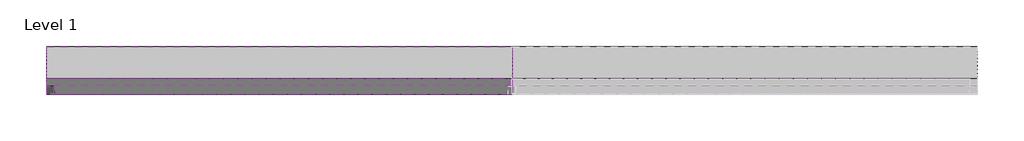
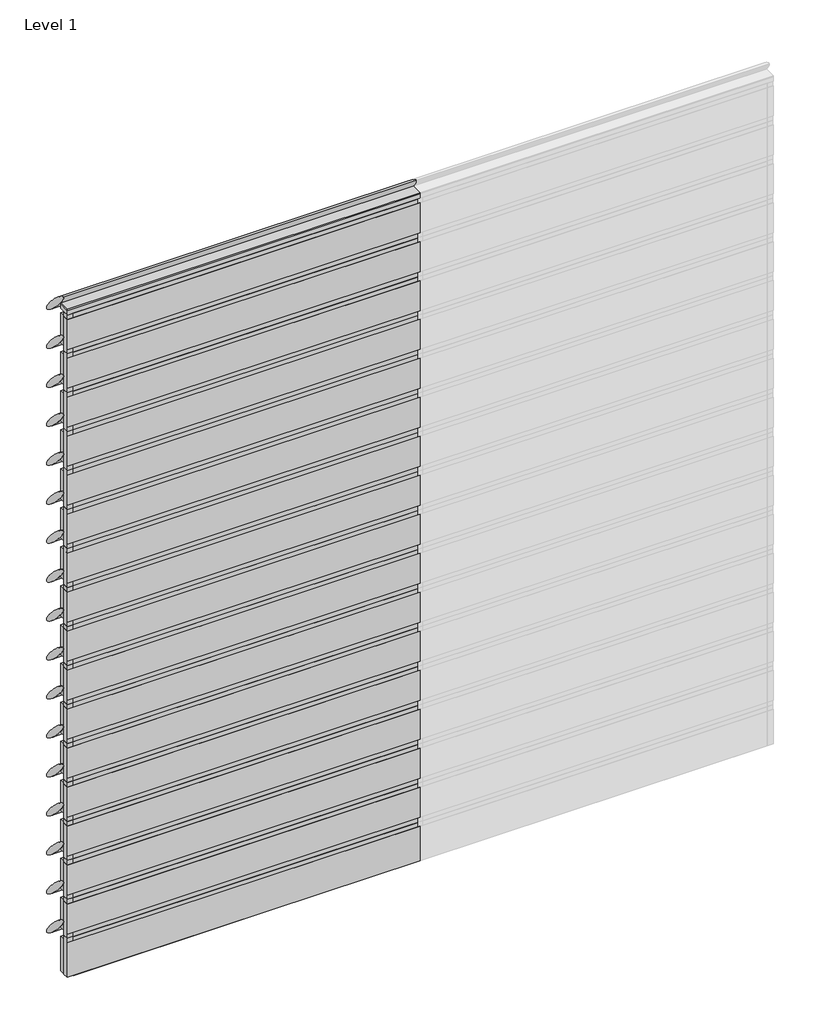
# One storey, part 1 of 2: 42 members, 36 plates.
"""IFC4 building model written with IfcOpenShell, lengths in millimetres."""

from ifc_helpers import new_model, si_unit, origin, place, context, project, spatial, transform, mapped, element, save
from components import rectangular_mullion_80596749, rectangular_mullion_795f5a7c, empty_system_panel_empty_a2c5d73e, empty_system_panel_empty_14cff943, empty_system_panel_empty_231ba346, empty_system_panel_empty_a0d4dec4, empty_system_panel_empty_5b0c2a42

model = new_model("IFC4")

# Units and contexts
model_context = context("Model", 3, world=origin())
ifc_project = project(units=[si_unit("LENGTHUNIT", "METRE", prefix="MILLI")], contexts=[model_context])

# Site, building, storey
site = spatial("IfcSite", under=ifc_project)
building = spatial("IfcBuilding", under=site)
storey = spatial("IfcBuildingStorey", under=building, Name="Level 1", Elevation=0.0)

# Members
placement = place(None, origin())
rectangular_mullion_shape = rectangular_mullion_80596749(model_context)
element("IfcMember", 1, ObjectType="Rectangular Mullion : RSen_21_CWM_blade - 350 ellips - 45°_gen_duco projects", at=placement, inside=storey, context=model_context, shape_type="MappedRepresentation", body=[
    mapped(rectangular_mullion_shape, transform((3000.0, 3000.0, 350.0), x_axis=(0.0, 0.0, 1.0), y_axis=(0.0, 1.0, 0.0), z_axis=(-1.0, 0.0, 0.0))),
])
element("IfcMember", 2, ObjectType="Rectangular Mullion : RSen_21_CWM_blade - 350 ellips - 45°_gen_duco projects", at=placement, inside=storey, context=model_context, shape_type="MappedRepresentation", body=[
    mapped(rectangular_mullion_shape, transform((3000.0, 3000.0, 700.0), x_axis=(0.0, 0.0, 1.0), y_axis=(0.0, 1.0, 0.0), z_axis=(-1.0, 0.0, 0.0))),
])
element("IfcMember", 3, ObjectType="Rectangular Mullion : RSen_21_CWM_blade - 350 ellips - 45°_gen_duco projects", at=placement, inside=storey, context=model_context, shape_type="MappedRepresentation", body=[
    mapped(rectangular_mullion_shape, transform((3000.0, 3000.0, 1050.0), x_axis=(0.0, 0.0, 1.0), y_axis=(0.0, 1.0, 0.0), z_axis=(-1.0, 0.0, 0.0))),
])
element("IfcMember", 4, ObjectType="Rectangular Mullion : RSen_21_CWM_blade - 350 ellips - 45°_gen_duco projects", at=placement, inside=storey, context=model_context, shape_type="MappedRepresentation", body=[
    mapped(rectangular_mullion_shape, transform((3000.0, 3000.0, 1400.0), x_axis=(0.0, 0.0, 1.0), y_axis=(0.0, 1.0, 0.0), z_axis=(-1.0, 0.0, 0.0))),
])
element("IfcMember", 5, ObjectType="Rectangular Mullion : RSen_21_CWM_blade - 350 ellips - 45°_gen_duco projects", at=placement, inside=storey, context=model_context, shape_type="MappedRepresentation", body=[
    mapped(rectangular_mullion_shape, transform((3000.0, 3000.0, 1750.0), x_axis=(0.0, 0.0, 1.0), y_axis=(0.0, 1.0, 0.0), z_axis=(-1.0, 0.0, 0.0))),
])
element("IfcMember", 6, ObjectType="Rectangular Mullion : RSen_21_CWM_blade - 350 ellips - 45°_gen_duco projects", at=placement, inside=storey, context=model_context, shape_type="MappedRepresentation", body=[
    mapped(rectangular_mullion_shape, transform((3000.0, 3000.0, 2100.0), x_axis=(0.0, 0.0, 1.0), y_axis=(0.0, 1.0, 0.0), z_axis=(-1.0, 0.0, 0.0))),
])
element("IfcMember", 7, ObjectType="Rectangular Mullion : RSen_21_CWM_blade - 350 ellips - 45°_gen_duco projects", at=placement, inside=storey, context=model_context, shape_type="MappedRepresentation", body=[
    mapped(rectangular_mullion_shape, transform((3000.0, 3000.0, 2450.0), x_axis=(0.0, 0.0, 1.0), y_axis=(0.0, 1.0, 0.0), z_axis=(-1.0, 0.0, 0.0))),
])
element("IfcMember", 8, ObjectType="Rectangular Mullion : RSen_21_CWM_blade - 350 ellips - 45°_gen_duco projects", at=placement, inside=storey, context=model_context, shape_type="MappedRepresentation", body=[
    mapped(rectangular_mullion_shape, transform((3000.0, 3000.0, 2800.0), x_axis=(0.0, 0.0, 1.0), y_axis=(0.0, 1.0, 0.0), z_axis=(-1.0, 0.0, 0.0))),
])
element("IfcMember", 9, ObjectType="Rectangular Mullion : RSen_21_CWM_blade - 350 ellips - 45°_gen_duco projects", at=placement, inside=storey, context=model_context, shape_type="MappedRepresentation", body=[
    mapped(rectangular_mullion_shape, transform((0.0, 3000.0, 350.0), x_axis=(0.0, 0.0, 1.0), y_axis=(0.0, 1.0, 0.0), z_axis=(-1.0, 0.0, 0.0))),
])
element("IfcMember", 10, ObjectType="Rectangular Mullion : RSen_21_CWM_blade - 350 ellips - 45°_gen_duco projects", at=placement, inside=storey, context=model_context, shape_type="MappedRepresentation", body=[
    mapped(rectangular_mullion_shape, transform((0.0, 3000.0, 700.0), x_axis=(0.0, 0.0, 1.0), y_axis=(0.0, 1.0, 0.0), z_axis=(-1.0, 0.0, 0.0))),
])
element("IfcMember", 11, ObjectType="Rectangular Mullion : RSen_21_CWM_blade - 350 ellips - 45°_gen_duco projects", at=placement, inside=storey, context=model_context, shape_type="MappedRepresentation", body=[
    mapped(rectangular_mullion_shape, transform((0.0, 3000.0, 1050.0), x_axis=(0.0, 0.0, 1.0), y_axis=(0.0, 1.0, 0.0), z_axis=(-1.0, 0.0, 0.0))),
])
element("IfcMember", 12, ObjectType="Rectangular Mullion : RSen_21_CWM_blade - 350 ellips - 45°_gen_duco projects", at=placement, inside=storey, context=model_context, shape_type="MappedRepresentation", body=[
    mapped(rectangular_mullion_shape, transform((0.0, 3000.0, 1400.0), x_axis=(0.0, 0.0, 1.0), y_axis=(0.0, 1.0, 0.0), z_axis=(-1.0, 0.0, 0.0))),
])
element("IfcMember", 13, ObjectType="Rectangular Mullion : RSen_21_CWM_blade - 350 ellips - 45°_gen_duco projects", at=placement, inside=storey, context=model_context, shape_type="MappedRepresentation", body=[
    mapped(rectangular_mullion_shape, transform((0.0, 3000.0, 1750.0), x_axis=(0.0, 0.0, 1.0), y_axis=(0.0, 1.0, 0.0), z_axis=(-1.0, 0.0, 0.0))),
])
element("IfcMember", 14, ObjectType="Rectangular Mullion : RSen_21_CWM_blade - 350 ellips - 45°_gen_duco projects", at=placement, inside=storey, context=model_context, shape_type="MappedRepresentation", body=[
    mapped(rectangular_mullion_shape, transform((0.0, 3000.0, 2100.0), x_axis=(0.0, 0.0, 1.0), y_axis=(0.0, 1.0, 0.0), z_axis=(-1.0, 0.0, 0.0))),
])
element("IfcMember", 15, ObjectType="Rectangular Mullion : RSen_21_CWM_blade - 350 ellips - 45°_gen_duco projects", at=placement, inside=storey, context=model_context, shape_type="MappedRepresentation", body=[
    mapped(rectangular_mullion_shape, transform((0.0, 3000.0, 2450.0), x_axis=(0.0, 0.0, 1.0), y_axis=(0.0, 1.0, 0.0), z_axis=(-1.0, 0.0, 0.0))),
])
element("IfcMember", 16, ObjectType="Rectangular Mullion : RSen_21_CWM_blade - 350 ellips - 45°_gen_duco projects", at=placement, inside=storey, context=model_context, shape_type="MappedRepresentation", body=[
    mapped(rectangular_mullion_shape, transform((0.0, 3000.0, 2800.0), x_axis=(0.0, 0.0, 1.0), y_axis=(0.0, 1.0, 0.0), z_axis=(-1.0, 0.0, 0.0))),
])
element("IfcMember", 17, ObjectType="Rectangular Mullion : RSen_21_CWM_blade - 350 ellips - 45°_gen_duco projects", at=placement, inside=storey, context=model_context, shape_type="MappedRepresentation", body=[
    mapped(rectangular_mullion_shape, transform((0.0, 3000.0, 3150.0), x_axis=(0.0, 0.0, 1.0), y_axis=(0.0, 1.0, 0.0), z_axis=(-1.0, 0.0, 0.0))),
])
element("IfcMember", 18, ObjectType="Rectangular Mullion : RSen_21_CWM_blade - 350 ellips - 45°_gen_duco projects", at=placement, inside=storey, context=model_context, shape_type="MappedRepresentation", body=[
    mapped(rectangular_mullion_shape, transform((0.0, 3000.0, 3500.0), x_axis=(0.0, 0.0, 1.0), y_axis=(0.0, 1.0, 0.0), z_axis=(-1.0, 0.0, 0.0))),
])
element("IfcMember", 19, ObjectType="Rectangular Mullion : RSen_21_CWM_blade - 350 ellips - 45°_gen_duco projects", at=placement, inside=storey, context=model_context, shape_type="MappedRepresentation", body=[
    mapped(rectangular_mullion_shape, transform((0.0, 3000.0, 3850.0), x_axis=(0.0, 0.0, 1.0), y_axis=(0.0, 1.0, 0.0), z_axis=(-1.0, 0.0, 0.0))),
])
element("IfcMember", 20, ObjectType="Rectangular Mullion : RSen_21_CWM_blade - 350 ellips - 45°_gen_duco projects", at=placement, inside=storey, context=model_context, shape_type="MappedRepresentation", body=[
    mapped(rectangular_mullion_shape, transform((0.0, 3000.0, 4200.0), x_axis=(0.0, 0.0, 1.0), y_axis=(0.0, 1.0, 0.0), z_axis=(-1.0, 0.0, 0.0))),
])
element("IfcMember", 21, ObjectType="Rectangular Mullion : RSen_21_CWM_blade - 350 ellips - 45°_gen_duco projects", at=placement, inside=storey, context=model_context, shape_type="MappedRepresentation", body=[
    mapped(rectangular_mullion_shape, transform((0.0, 3000.0, 4550.0), x_axis=(0.0, 0.0, 1.0), y_axis=(0.0, 1.0, 0.0), z_axis=(-1.0, 0.0, 0.0))),
])
element("IfcMember", 22, ObjectType="Rectangular Mullion : RSen_21_CWM_blade - 350 ellips - 45°_gen_duco projects", at=placement, inside=storey, context=model_context, shape_type="MappedRepresentation", body=[
    mapped(rectangular_mullion_shape, transform((0.0, 3000.0, 4900.0), x_axis=(0.0, 0.0, 1.0), y_axis=(0.0, 1.0, 0.0), z_axis=(-1.0, 0.0, 0.0))),
])
element("IfcMember", 23, ObjectType="Rectangular Mullion : RSen_21_CWM_blade - 350 ellips - 45°_gen_duco projects", at=placement, inside=storey, context=model_context, shape_type="MappedRepresentation", body=[
    mapped(rectangular_mullion_shape, transform((0.0, 3000.0, 5250.0), x_axis=(0.0, 0.0, 1.0), y_axis=(0.0, 1.0, 0.0), z_axis=(-1.0, 0.0, 0.0))),
])
element("IfcMember", 24, ObjectType="Rectangular Mullion : RSen_21_CWM_blade - 350 ellips - 45°_gen_duco projects", at=placement, inside=storey, context=model_context, shape_type="MappedRepresentation", body=[
    mapped(rectangular_mullion_shape, transform((0.0, 3000.0, 5600.0), x_axis=(0.0, 0.0, 1.0), y_axis=(0.0, 1.0, 0.0), z_axis=(-1.0, 0.0, 0.0))),
])
element("IfcMember", 25, ObjectType="Rectangular Mullion : RSen_21_CWM_blade - 350 ellips - 45°_gen_duco projects", at=placement, inside=storey, context=model_context, shape_type="MappedRepresentation", body=[
    mapped(rectangular_mullion_shape, transform((0.0, 3000.0, 5950.0), x_axis=(0.0, 0.0, 1.0), y_axis=(0.0, 1.0, 0.0), z_axis=(-1.0, 0.0, 0.0))),
])
rectangular_mullion_2_shape = rectangular_mullion_795f5a7c(model_context)
element("IfcMember", 26, ObjectType="Rectangular Mullion : RSen_21_CWM_support profile 50x50 - left_gen_duco projects", at=placement, inside=storey, context=model_context, shape_type="MappedRepresentation", body=[
    mapped(rectangular_mullion_2_shape, transform((0.0, 3000.0, 0.0), x_axis=(-1.0, 0.0, 0.0), y_axis=(0.0, 1.0, 0.0), z_axis=(0.0, 0.0, -1.0))),
])
element("IfcMember", 27, ObjectType="Rectangular Mullion : RSen_21_CWM_support profile 50x50 - left_gen_duco projects", at=placement, inside=storey, context=model_context, shape_type="MappedRepresentation", body=[
    mapped(rectangular_mullion_2_shape, transform((0.0, 3000.0, 350.0), x_axis=(-1.0, 0.0, 0.0), y_axis=(0.0, 1.0, 0.0), z_axis=(0.0, 0.0, -1.0))),
])
element("IfcMember", 28, ObjectType="Rectangular Mullion : RSen_21_CWM_support profile 50x50 - left_gen_duco projects", at=placement, inside=storey, context=model_context, shape_type="MappedRepresentation", body=[
    mapped(rectangular_mullion_2_shape, transform((0.0, 3000.0, 700.0), x_axis=(-1.0, 0.0, 0.0), y_axis=(0.0, 1.0, 0.0), z_axis=(0.0, 0.0, -1.0))),
])
element("IfcMember", 29, ObjectType="Rectangular Mullion : RSen_21_CWM_support profile 50x50 - left_gen_duco projects", at=placement, inside=storey, context=model_context, shape_type="MappedRepresentation", body=[
    mapped(rectangular_mullion_2_shape, transform((0.0, 3000.0, 1050.0), x_axis=(-1.0, 0.0, 0.0), y_axis=(0.0, 1.0, 0.0), z_axis=(0.0, 0.0, -1.0))),
])
element("IfcMember", 30, ObjectType="Rectangular Mullion : RSen_21_CWM_support profile 50x50 - left_gen_duco projects", at=placement, inside=storey, context=model_context, shape_type="MappedRepresentation", body=[
    mapped(rectangular_mullion_2_shape, transform((0.0, 3000.0, 1400.0), x_axis=(-1.0, 0.0, 0.0), y_axis=(0.0, 1.0, 0.0), z_axis=(0.0, 0.0, -1.0))),
])
element("IfcMember", 31, ObjectType="Rectangular Mullion : RSen_21_CWM_support profile 50x50 - left_gen_duco projects", at=placement, inside=storey, context=model_context, shape_type="MappedRepresentation", body=[
    mapped(rectangular_mullion_2_shape, transform((0.0, 3000.0, 1750.0), x_axis=(-1.0, 0.0, 0.0), y_axis=(0.0, 1.0, 0.0), z_axis=(0.0, 0.0, -1.0))),
])
element("IfcMember", 32, ObjectType="Rectangular Mullion : RSen_21_CWM_support profile 50x50 - left_gen_duco projects", at=placement, inside=storey, context=model_context, shape_type="MappedRepresentation", body=[
    mapped(rectangular_mullion_2_shape, transform((0.0, 3000.0, 2100.0), x_axis=(-1.0, 0.0, 0.0), y_axis=(0.0, 1.0, 0.0), z_axis=(0.0, 0.0, -1.0))),
])
element("IfcMember", 33, ObjectType="Rectangular Mullion : RSen_21_CWM_support profile 50x50 - left_gen_duco projects", at=placement, inside=storey, context=model_context, shape_type="MappedRepresentation", body=[
    mapped(rectangular_mullion_2_shape, transform((0.0, 3000.0, 2450.0), x_axis=(-1.0, 0.0, 0.0), y_axis=(0.0, 1.0, 0.0), z_axis=(0.0, 0.0, -1.0))),
])
element("IfcMember", 34, ObjectType="Rectangular Mullion : RSen_21_CWM_support profile 50x50 - left_gen_duco projects", at=placement, inside=storey, context=model_context, shape_type="MappedRepresentation", body=[
    mapped(rectangular_mullion_2_shape, transform((0.0, 3000.0, 2800.0), x_axis=(-1.0, 0.0, 0.0), y_axis=(0.0, 1.0, 0.0), z_axis=(0.0, 0.0, -1.0))),
])
element("IfcMember", 35, ObjectType="Rectangular Mullion : RSen_21_CWM_support profile 50x50 - left_gen_duco projects", at=placement, inside=storey, context=model_context, shape_type="MappedRepresentation", body=[
    mapped(rectangular_mullion_2_shape, transform((0.0, 3000.0, 3150.0), x_axis=(-1.0, 0.0, 0.0), y_axis=(0.0, 1.0, 0.0), z_axis=(0.0, 0.0, -1.0))),
])
element("IfcMember", 36, ObjectType="Rectangular Mullion : RSen_21_CWM_support profile 50x50 - left_gen_duco projects", at=placement, inside=storey, context=model_context, shape_type="MappedRepresentation", body=[
    mapped(rectangular_mullion_2_shape, transform((0.0, 3000.0, 3500.0), x_axis=(-1.0, 0.0, 0.0), y_axis=(0.0, 1.0, 0.0), z_axis=(0.0, 0.0, -1.0))),
])
element("IfcMember", 37, ObjectType="Rectangular Mullion : RSen_21_CWM_support profile 50x50 - left_gen_duco projects", at=placement, inside=storey, context=model_context, shape_type="MappedRepresentation", body=[
    mapped(rectangular_mullion_2_shape, transform((0.0, 3000.0, 3850.0), x_axis=(-1.0, 0.0, 0.0), y_axis=(0.0, 1.0, 0.0), z_axis=(0.0, 0.0, -1.0))),
])
element("IfcMember", 38, ObjectType="Rectangular Mullion : RSen_21_CWM_support profile 50x50 - left_gen_duco projects", at=placement, inside=storey, context=model_context, shape_type="MappedRepresentation", body=[
    mapped(rectangular_mullion_2_shape, transform((0.0, 3000.0, 4200.0), x_axis=(-1.0, 0.0, 0.0), y_axis=(0.0, 1.0, 0.0), z_axis=(0.0, 0.0, -1.0))),
])
element("IfcMember", 39, ObjectType="Rectangular Mullion : RSen_21_CWM_support profile 50x50 - left_gen_duco projects", at=placement, inside=storey, context=model_context, shape_type="MappedRepresentation", body=[
    mapped(rectangular_mullion_2_shape, transform((0.0, 3000.0, 4550.0), x_axis=(-1.0, 0.0, 0.0), y_axis=(0.0, 1.0, 0.0), z_axis=(0.0, 0.0, -1.0))),
])
element("IfcMember", 40, ObjectType="Rectangular Mullion : RSen_21_CWM_support profile 50x50 - left_gen_duco projects", at=placement, inside=storey, context=model_context, shape_type="MappedRepresentation", body=[
    mapped(rectangular_mullion_2_shape, transform((0.0, 3000.0, 4900.0), x_axis=(-1.0, 0.0, 0.0), y_axis=(0.0, 1.0, 0.0), z_axis=(0.0, 0.0, -1.0))),
])
element("IfcMember", 41, ObjectType="Rectangular Mullion : RSen_21_CWM_support profile 50x50 - left_gen_duco projects", at=placement, inside=storey, context=model_context, shape_type="MappedRepresentation", body=[
    mapped(rectangular_mullion_2_shape, transform((0.0, 3000.0, 5250.0), x_axis=(-1.0, 0.0, 0.0), y_axis=(0.0, 1.0, 0.0), z_axis=(0.0, 0.0, -1.0))),
])
element("IfcMember", 42, ObjectType="Rectangular Mullion : RSen_21_CWM_support profile 50x50 - left_gen_duco projects", at=placement, inside=storey, context=model_context, shape_type="MappedRepresentation", body=[
    mapped(rectangular_mullion_2_shape, transform((0.0, 3000.0, 5600.0), x_axis=(-1.0, 0.0, 0.0), y_axis=(0.0, 1.0, 0.0), z_axis=(0.0, 0.0, -1.0))),
])

# Plates
empty_system_panel_empty_shape = empty_system_panel_empty_a2c5d73e(model_context)
element("IfcPlate", 43, ObjectType="Empty System Panel : Empty", at=placement, inside=storey, context=model_context, shape_type="MappedRepresentation", body=[
    mapped(empty_system_panel_empty_shape, transform((1500.0, 3000.0, 5990.3050865), x_axis=(-1.0, 0.0, 0.0), y_axis=(0.0, -1.0, 0.0), z_axis=(0.0, 0.0, 1.0))),
])
empty_system_panel_empty_2_shape = empty_system_panel_empty_14cff943(model_context)
element("IfcPlate", 44, ObjectType="Empty System Panel : Empty", at=placement, inside=storey, context=model_context, shape_type="MappedRepresentation", body=[
    mapped(empty_system_panel_empty_2_shape, transform((1500.0, 3000.0, 0.0), x_axis=(-1.0, 0.0, 0.0), y_axis=(0.0, -1.0, 0.0), z_axis=(0.0, 0.0, 1.0))),
])
empty_system_panel_empty_3_shape = empty_system_panel_empty_231ba346(model_context)
element("IfcPlate", 45, ObjectType="Empty System Panel : Empty", at=placement, inside=storey, context=model_context, shape_type="MappedRepresentation", body=[
    mapped(empty_system_panel_empty_3_shape, transform((1500.0, 3000.0, 390.3050865), x_axis=(-1.0, 0.0, 0.0), y_axis=(0.0, -1.0, 0.0), z_axis=(0.0, 0.0, 1.0))),
])
element("IfcPlate", 46, ObjectType="Empty System Panel : Empty", at=placement, inside=storey, context=model_context, shape_type="MappedRepresentation", body=[
    mapped(empty_system_panel_empty_3_shape, transform((1500.0, 3000.0, 740.3050865), x_axis=(-1.0, 0.0, 0.0), y_axis=(0.0, -1.0, 0.0), z_axis=(0.0, 0.0, 1.0))),
])
element("IfcPlate", 47, ObjectType="Empty System Panel : Empty", at=placement, inside=storey, context=model_context, shape_type="MappedRepresentation", body=[
    mapped(empty_system_panel_empty_3_shape, transform((1500.0, 3000.0, 1090.3050865), x_axis=(-1.0, 0.0, 0.0), y_axis=(0.0, -1.0, 0.0), z_axis=(0.0, 0.0, 1.0))),
])
element("IfcPlate", 48, ObjectType="Empty System Panel : Empty", at=placement, inside=storey, context=model_context, shape_type="MappedRepresentation", body=[
    mapped(empty_system_panel_empty_3_shape, transform((1500.0, 3000.0, 1440.3050865), x_axis=(-1.0, 0.0, 0.0), y_axis=(0.0, -1.0, 0.0), z_axis=(0.0, 0.0, 1.0))),
])
element("IfcPlate", 49, ObjectType="Empty System Panel : Empty", at=placement, inside=storey, context=model_context, shape_type="MappedRepresentation", body=[
    mapped(empty_system_panel_empty_3_shape, transform((1500.0, 3000.0, 1790.3050865), x_axis=(-1.0, 0.0, 0.0), y_axis=(0.0, -1.0, 0.0), z_axis=(0.0, 0.0, 1.0))),
])
element("IfcPlate", 50, ObjectType="Empty System Panel : Empty", at=placement, inside=storey, context=model_context, shape_type="MappedRepresentation", body=[
    mapped(empty_system_panel_empty_3_shape, transform((1500.0, 3000.0, 2140.3050865), x_axis=(-1.0, 0.0, 0.0), y_axis=(0.0, -1.0, 0.0), z_axis=(0.0, 0.0, 1.0))),
])
element("IfcPlate", 51, ObjectType="Empty System Panel : Empty", at=placement, inside=storey, context=model_context, shape_type="MappedRepresentation", body=[
    mapped(empty_system_panel_empty_3_shape, transform((1500.0, 3000.0, 2490.3050865), x_axis=(-1.0, 0.0, 0.0), y_axis=(0.0, -1.0, 0.0), z_axis=(0.0, 0.0, 1.0))),
])
element("IfcPlate", 52, ObjectType="Empty System Panel : Empty", at=placement, inside=storey, context=model_context, shape_type="MappedRepresentation", body=[
    mapped(empty_system_panel_empty_3_shape, transform((1500.0, 3000.0, 2840.3050865), x_axis=(-1.0, 0.0, 0.0), y_axis=(0.0, -1.0, 0.0), z_axis=(0.0, 0.0, 1.0))),
])
element("IfcPlate", 53, ObjectType="Empty System Panel : Empty", at=placement, inside=storey, context=model_context, shape_type="MappedRepresentation", body=[
    mapped(empty_system_panel_empty_3_shape, transform((1500.0, 3000.0, 3190.3050865), x_axis=(-1.0, 0.0, 0.0), y_axis=(0.0, -1.0, 0.0), z_axis=(0.0, 0.0, 1.0))),
])
element("IfcPlate", 54, ObjectType="Empty System Panel : Empty", at=placement, inside=storey, context=model_context, shape_type="MappedRepresentation", body=[
    mapped(empty_system_panel_empty_3_shape, transform((1500.0, 3000.0, 3540.3050865), x_axis=(-1.0, 0.0, 0.0), y_axis=(0.0, -1.0, 0.0), z_axis=(0.0, 0.0, 1.0))),
])
element("IfcPlate", 55, ObjectType="Empty System Panel : Empty", at=placement, inside=storey, context=model_context, shape_type="MappedRepresentation", body=[
    mapped(empty_system_panel_empty_3_shape, transform((1500.0, 3000.0, 3890.3050865), x_axis=(-1.0, 0.0, 0.0), y_axis=(0.0, -1.0, 0.0), z_axis=(0.0, 0.0, 1.0))),
])
element("IfcPlate", 56, ObjectType="Empty System Panel : Empty", at=placement, inside=storey, context=model_context, shape_type="MappedRepresentation", body=[
    mapped(empty_system_panel_empty_3_shape, transform((1500.0, 3000.0, 4240.3050865), x_axis=(-1.0, 0.0, 0.0), y_axis=(0.0, -1.0, 0.0), z_axis=(0.0, 0.0, 1.0))),
])
element("IfcPlate", 57, ObjectType="Empty System Panel : Empty", at=placement, inside=storey, context=model_context, shape_type="MappedRepresentation", body=[
    mapped(empty_system_panel_empty_3_shape, transform((1500.0, 3000.0, 4590.3050865), x_axis=(-1.0, 0.0, 0.0), y_axis=(0.0, -1.0, 0.0), z_axis=(0.0, 0.0, 1.0))),
])
element("IfcPlate", 58, ObjectType="Empty System Panel : Empty", at=placement, inside=storey, context=model_context, shape_type="MappedRepresentation", body=[
    mapped(empty_system_panel_empty_3_shape, transform((1500.0, 3000.0, 4940.3050865), x_axis=(-1.0, 0.0, 0.0), y_axis=(0.0, -1.0, 0.0), z_axis=(0.0, 0.0, 1.0))),
])
element("IfcPlate", 59, ObjectType="Empty System Panel : Empty", at=placement, inside=storey, context=model_context, shape_type="MappedRepresentation", body=[
    mapped(empty_system_panel_empty_3_shape, transform((1500.0, 3000.0, 5290.3050865), x_axis=(-1.0, 0.0, 0.0), y_axis=(0.0, -1.0, 0.0), z_axis=(0.0, 0.0, 1.0))),
])
element("IfcPlate", 60, ObjectType="Empty System Panel : Empty", at=placement, inside=storey, context=model_context, shape_type="MappedRepresentation", body=[
    mapped(empty_system_panel_empty_3_shape, transform((1500.0, 3000.0, 5640.3050865), x_axis=(-1.0, 0.0, 0.0), y_axis=(0.0, -1.0, 0.0), z_axis=(0.0, 0.0, 1.0))),
])
empty_system_panel_empty_4_shape = empty_system_panel_empty_a0d4dec4(model_context)
element("IfcPlate", 61, ObjectType="Empty System Panel : Empty", at=placement, inside=storey, context=model_context, shape_type="MappedRepresentation", body=[
    mapped(empty_system_panel_empty_4_shape, transform((1512.5, 3000.0, 0.0), x_axis=(-1.0, 0.0, 0.0), y_axis=(0.0, -1.0, 0.0), z_axis=(0.0, 0.0, 1.0))),
])
element("IfcPlate", 62, ObjectType="Empty System Panel : Empty", at=placement, inside=storey, context=model_context, shape_type="MappedRepresentation", body=[
    mapped(empty_system_panel_empty_4_shape, transform((1512.5, 3000.0, 350.0), x_axis=(-1.0, 0.0, 0.0), y_axis=(0.0, -1.0, 0.0), z_axis=(0.0, 0.0, 1.0))),
])
element("IfcPlate", 63, ObjectType="Empty System Panel : Empty", at=placement, inside=storey, context=model_context, shape_type="MappedRepresentation", body=[
    mapped(empty_system_panel_empty_4_shape, transform((1512.5, 3000.0, 700.0), x_axis=(-1.0, 0.0, 0.0), y_axis=(0.0, -1.0, 0.0), z_axis=(0.0, 0.0, 1.0))),
])
element("IfcPlate", 64, ObjectType="Empty System Panel : Empty", at=placement, inside=storey, context=model_context, shape_type="MappedRepresentation", body=[
    mapped(empty_system_panel_empty_4_shape, transform((1512.5, 3000.0, 1050.0), x_axis=(-1.0, 0.0, 0.0), y_axis=(0.0, -1.0, 0.0), z_axis=(0.0, 0.0, 1.0))),
])
element("IfcPlate", 65, ObjectType="Empty System Panel : Empty", at=placement, inside=storey, context=model_context, shape_type="MappedRepresentation", body=[
    mapped(empty_system_panel_empty_4_shape, transform((1512.5, 3000.0, 1400.0), x_axis=(-1.0, 0.0, 0.0), y_axis=(0.0, -1.0, 0.0), z_axis=(0.0, 0.0, 1.0))),
])
element("IfcPlate", 66, ObjectType="Empty System Panel : Empty", at=placement, inside=storey, context=model_context, shape_type="MappedRepresentation", body=[
    mapped(empty_system_panel_empty_4_shape, transform((1512.5, 3000.0, 1750.0), x_axis=(-1.0, 0.0, 0.0), y_axis=(0.0, -1.0, 0.0), z_axis=(0.0, 0.0, 1.0))),
])
element("IfcPlate", 67, ObjectType="Empty System Panel : Empty", at=placement, inside=storey, context=model_context, shape_type="MappedRepresentation", body=[
    mapped(empty_system_panel_empty_4_shape, transform((1512.5, 3000.0, 2100.0), x_axis=(-1.0, 0.0, 0.0), y_axis=(0.0, -1.0, 0.0), z_axis=(0.0, 0.0, 1.0))),
])
element("IfcPlate", 68, ObjectType="Empty System Panel : Empty", at=placement, inside=storey, context=model_context, shape_type="MappedRepresentation", body=[
    mapped(empty_system_panel_empty_4_shape, transform((1512.5, 3000.0, 2450.0), x_axis=(-1.0, 0.0, 0.0), y_axis=(0.0, -1.0, 0.0), z_axis=(0.0, 0.0, 1.0))),
])
element("IfcPlate", 69, ObjectType="Empty System Panel : Empty", at=placement, inside=storey, context=model_context, shape_type="MappedRepresentation", body=[
    mapped(empty_system_panel_empty_4_shape, transform((1512.5, 3000.0, 2800.0), x_axis=(-1.0, 0.0, 0.0), y_axis=(0.0, -1.0, 0.0), z_axis=(0.0, 0.0, 1.0))),
])
element("IfcPlate", 70, ObjectType="Empty System Panel : Empty", at=placement, inside=storey, context=model_context, shape_type="MappedRepresentation", body=[
    mapped(empty_system_panel_empty_4_shape, transform((1512.5, 3000.0, 3150.0), x_axis=(-1.0, 0.0, 0.0), y_axis=(0.0, -1.0, 0.0), z_axis=(0.0, 0.0, 1.0))),
])
element("IfcPlate", 71, ObjectType="Empty System Panel : Empty", at=placement, inside=storey, context=model_context, shape_type="MappedRepresentation", body=[
    mapped(empty_system_panel_empty_4_shape, transform((1512.5, 3000.0, 3500.0), x_axis=(-1.0, 0.0, 0.0), y_axis=(0.0, -1.0, 0.0), z_axis=(0.0, 0.0, 1.0))),
])
element("IfcPlate", 72, ObjectType="Empty System Panel : Empty", at=placement, inside=storey, context=model_context, shape_type="MappedRepresentation", body=[
    mapped(empty_system_panel_empty_4_shape, transform((1512.5, 3000.0, 3850.0), x_axis=(-1.0, 0.0, 0.0), y_axis=(0.0, -1.0, 0.0), z_axis=(0.0, 0.0, 1.0))),
])
element("IfcPlate", 73, ObjectType="Empty System Panel : Empty", at=placement, inside=storey, context=model_context, shape_type="MappedRepresentation", body=[
    mapped(empty_system_panel_empty_4_shape, transform((1512.5, 3000.0, 4200.0), x_axis=(-1.0, 0.0, 0.0), y_axis=(0.0, -1.0, 0.0), z_axis=(0.0, 0.0, 1.0))),
])
element("IfcPlate", 74, ObjectType="Empty System Panel : Empty", at=placement, inside=storey, context=model_context, shape_type="MappedRepresentation", body=[
    mapped(empty_system_panel_empty_4_shape, transform((1512.5, 3000.0, 4550.0), x_axis=(-1.0, 0.0, 0.0), y_axis=(0.0, -1.0, 0.0), z_axis=(0.0, 0.0, 1.0))),
])
element("IfcPlate", 75, ObjectType="Empty System Panel : Empty", at=placement, inside=storey, context=model_context, shape_type="MappedRepresentation", body=[
    mapped(empty_system_panel_empty_4_shape, transform((1512.5, 3000.0, 4900.0), x_axis=(-1.0, 0.0, 0.0), y_axis=(0.0, -1.0, 0.0), z_axis=(0.0, 0.0, 1.0))),
])
element("IfcPlate", 76, ObjectType="Empty System Panel : Empty", at=placement, inside=storey, context=model_context, shape_type="MappedRepresentation", body=[
    mapped(empty_system_panel_empty_4_shape, transform((1512.5, 3000.0, 5250.0), x_axis=(-1.0, 0.0, 0.0), y_axis=(0.0, -1.0, 0.0), z_axis=(0.0, 0.0, 1.0))),
])
element("IfcPlate", 77, ObjectType="Empty System Panel : Empty", at=placement, inside=storey, context=model_context, shape_type="MappedRepresentation", body=[
    mapped(empty_system_panel_empty_4_shape, transform((1512.5, 3000.0, 5600.0), x_axis=(-1.0, 0.0, 0.0), y_axis=(0.0, -1.0, 0.0), z_axis=(0.0, 0.0, 1.0))),
])
empty_system_panel_empty_5_shape = empty_system_panel_empty_5b0c2a42(model_context)
element("IfcPlate", 78, ObjectType="Empty System Panel : Empty", at=placement, inside=storey, context=model_context, shape_type="MappedRepresentation", body=[
    mapped(empty_system_panel_empty_5_shape, transform((1500.0, 3000.0, 5950.0), x_axis=(-1.0, 0.0, 0.0), y_axis=(0.0, -1.0, 0.0), z_axis=(0.0, 0.0, 1.0))),
])

save(model, "model.ifc")
